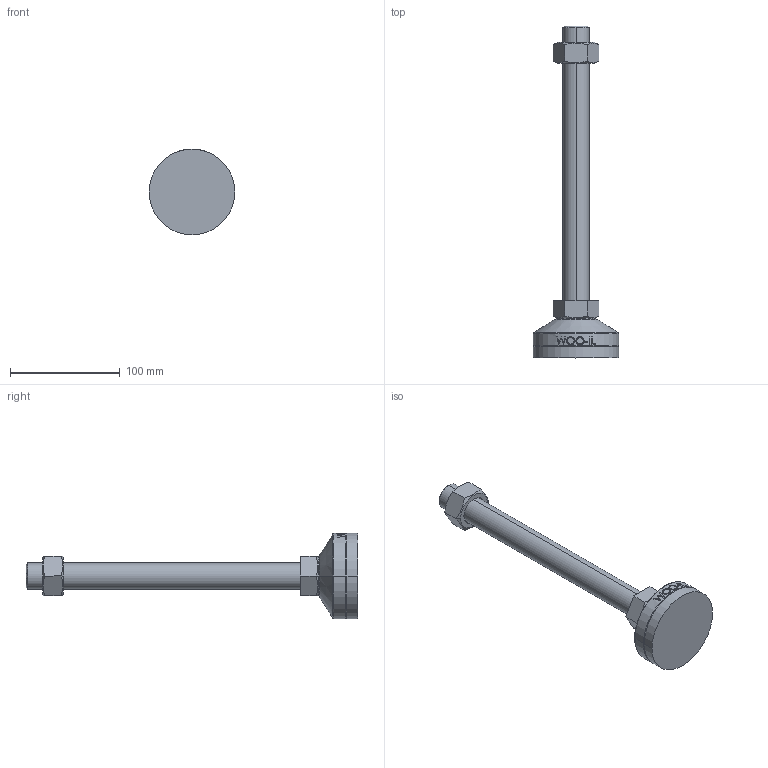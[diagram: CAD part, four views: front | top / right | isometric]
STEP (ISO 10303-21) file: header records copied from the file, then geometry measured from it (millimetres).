
FILE_DESCRIPTION (( 'STEP AP214' ), '1' );
FILE_NAME ('MFR78-M24-250.step', '2021-01-13T05:40:29', ( '' ), ( '' ), 'SwSTEP 2.0', 'SolidWorks 2019', '' );
FILE_SCHEMA (( 'AUTOMOTIVE_DESIGN' ));
Length unit declared in the file: millimetre
Products named in the file (2): MFR78-M24-250
Bounding box: 78 x 302 x 78 mm (x, y, z)
Volume: 286536.7 mm3; surface area: 53115.8 mm2
Topology: 4 solids, 4 shells, 103 faces, 235 edges, 150 vertices
Faces by surface type: plane 49, cylinder 18, bspline 16, cone 14, torus 6
Entity records: 4471 total; most frequent: CARTESIAN_POINT 2198, ORIENTED_EDGE 470, DIRECTION 417, EDGE_CURVE 235, AXIS2_PLACEMENT_3D 159, VERTEX_POINT 150, EDGE_LOOP 115, ADVANCED_FACE 103
